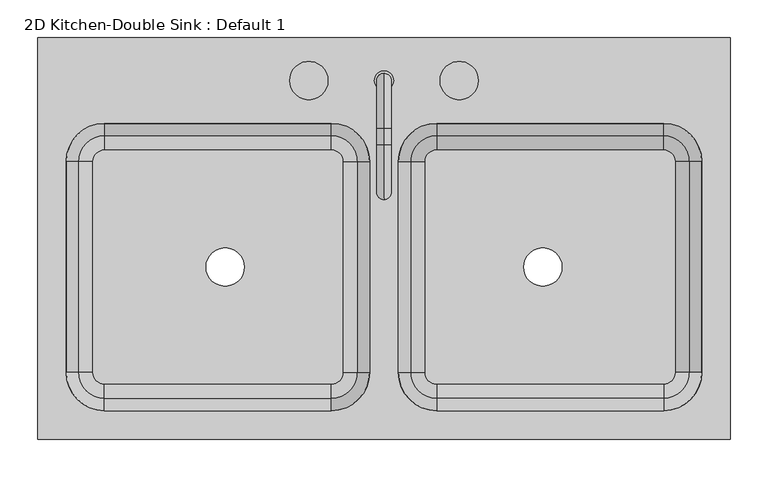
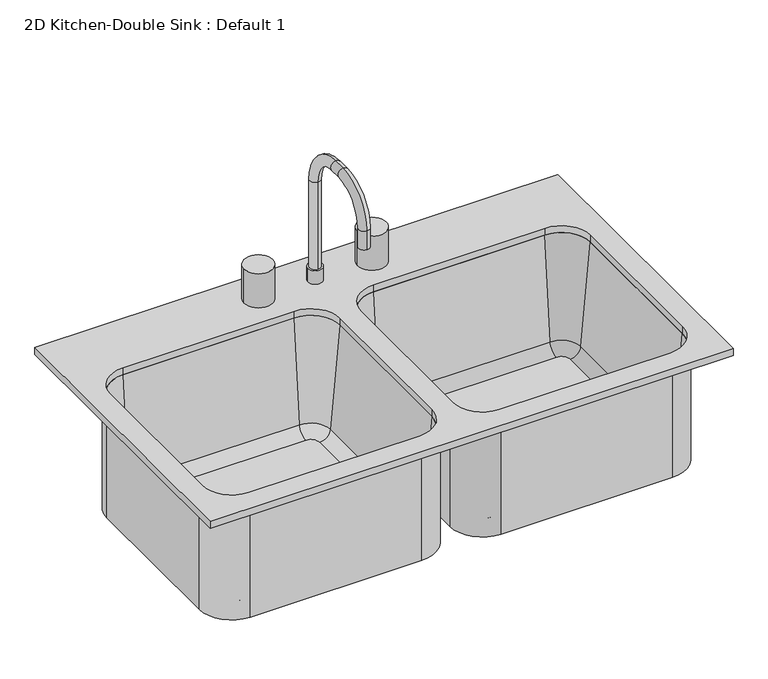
"""IFC4 building model written with IfcOpenShell, lengths in millimetres: flow terminal geometry, 2D Kitchen-Double Sink : Default 1."""

import ifcopenshell
import ifcopenshell.guid

model = None  # the IFC model being written
_history = None  # IfcOwnerHistory: only IFC2X3 demands one
_inside = {}  # id of a spatial element -> (the spatial element, [elements in it])
_under = {}  # id of a project, library or spatial element -> (it, [spatial elements below it])
_declared = {}  # id of a project -> (the project, [libraries it declares])
_typed = {}  # id of a type object -> (the type object, [elements of that type])
_made_of = {}  # id of a material, layer set ... -> (it, [elements and type objects made of it])


def new_model(schema):
    """Start an empty IFC model of exactly this schema.

    Asked for "IFC4X3", IfcOpenShell would pick the latest addendum, in which some entities
    have other attributes; the version numbers below select the first issue.
    IFC2X3 requires an IfcOwnerHistory on every rooted entity: one is made here for all.
    """
    global model, _history
    if schema == "IFC4X3":
        model = ifcopenshell.file(schema_version=(4, 3, 0, 0))
    else:
        model = ifcopenshell.file(schema=schema)
    _inside.clear()
    _under.clear()
    _declared.clear()
    _typed.clear()
    _made_of.clear()
    _history = None
    if model.schema == "IFC2X3":
        org = make("IfcOrganization", Name="unknown")
        user = make(
            "IfcPersonAndOrganization",
            ThePerson=make("IfcPerson", FamilyName="unknown"),
            TheOrganization=org,
        )
        app = make(
            "IfcApplication",
            ApplicationDeveloper=org,
            Version="unknown",
            ApplicationFullName="unknown",
            ApplicationIdentifier="unknown",
        )
        _history = make(
            "IfcOwnerHistory",
            OwningUser=user,
            OwningApplication=app,
            ChangeAction="ADDED",
            CreationDate=0,
        )
    return model


def make(cls, **values):
    """One entity of the class cls with the attributes given. An attribute that is None is left unset."""
    return model.create_entity(
        cls, **{name: value for name, value in values.items() if value is not None}
    )


def rooted(cls, **values):
    """An entity with a GlobalId (a new one), such as an element, a storey or a relation."""
    return make(cls, GlobalId=ifcopenshell.guid.new(), OwnerHistory=_history, **values)


def si_unit(unit_type, name, prefix=None):
    """IfcSIUnit, for example si_unit("LENGTHUNIT", "METRE", prefix="MILLI")."""
    return make("IfcSIUnit", UnitType=unit_type, Prefix=prefix, Name=name)


def assignment(units):
    """IfcUnitAssignment: the units of a project."""
    return None if units is None else make("IfcUnitAssignment", Units=units)


def point(xyz):
    """IfcCartesianPoint."""
    return None if xyz is None else make("IfcCartesianPoint", Coordinates=xyz)


def direction(xyz):
    """IfcDirection."""
    return None if xyz is None else make("IfcDirection", DirectionRatios=xyz)


def frame(location, z_axis=None, x_axis=None):
    """IfcAxis2Placement3D, a coordinate frame: its origin and axes. An axis left out is left unset."""
    return make(
        "IfcAxis2Placement3D",
        Location=point(location),
        Axis=direction(z_axis),
        RefDirection=direction(x_axis),
    )


def frame_2d(location, x_axis=None):
    """IfcAxis2Placement2D, a coordinate frame in the plane: its origin and x axis."""
    return make(
        "IfcAxis2Placement2D", Location=point(location), RefDirection=direction(x_axis)
    )


def origin():
    """The frame at (0, 0, 0) with its axes left unset."""
    return frame((0.0, 0.0, 0.0))


def place(relative_to, where):
    """IfcLocalPlacement: puts the frame where relative to a parent placement (None: the world)."""
    return make(
        "IfcLocalPlacement", PlacementRelTo=relative_to, RelativePlacement=where
    )


def context(
    kind, dimensions, precision=None, world=None, true_north=None, identifier=None
):
    """IfcGeometricRepresentationContext, for example the 3D "Model" context."""
    return make(
        "IfcGeometricRepresentationContext",
        ContextIdentifier=identifier,
        ContextType=kind,
        CoordinateSpaceDimension=dimensions,
        Precision=precision,
        WorldCoordinateSystem=world,
        TrueNorth=true_north,
    )


def project(units=None, contexts=None):
    """IfcProject with its units and contexts."""
    return rooted(
        "IfcProject",
        Name="project",
        RepresentationContexts=contexts,
        UnitsInContext=assignment(units),
    )


def spatial(cls, under=None, at=None, **own):
    """A site, building, storey or space (cls), placed at a placement, below another one or the project."""
    s = rooted(cls, ObjectPlacement=at, **own)
    if under is not None:
        _under.setdefault(under.id(), (under, []))[1].append(s)
    return s


def polyline(points):
    """IfcPolyline through the points."""
    return make("IfcPolyline", Points=[point(p) for p in points])


def circle_curve(where, radius):
    """IfcCircle in the frame where."""
    return make("IfcCircle", Position=where, Radius=radius)


def ellipse_curve(where, semi_axis1, semi_axis2):
    """IfcEllipse in the frame where."""
    return make(
        "IfcEllipse", Position=where, SemiAxis1=semi_axis1, SemiAxis2=semi_axis2
    )


def trimmed(basis, trim1, trim2, sense, master):
    """IfcTrimmedCurve: the piece of a basis curve between two trims."""
    return make(
        "IfcTrimmedCurve",
        BasisCurve=basis,
        Trim1=trim1,
        Trim2=trim2,
        SenseAgreement=sense,
        MasterRepresentation=master,
    )


def segment(curve, same_sense, transition):
    """IfcCompositeCurveSegment."""
    return make(
        "IfcCompositeCurveSegment",
        Transition=transition,
        SameSense=same_sense,
        ParentCurve=curve,
    )


def composite_curve(segments, self_intersect=None):
    """IfcCompositeCurve: segments joined end to end."""
    return make("IfcCompositeCurve", Segments=segments, SelfIntersect=self_intersect)


def outline(outer, holes=None, kind="AREA"):
    """IfcArbitraryClosedProfileDef: a profile drawn as a closed curve; with holes, ...WithVoids."""
    if holes is None:
        return make("IfcArbitraryClosedProfileDef", ProfileType=kind, OuterCurve=outer)
    return make(
        "IfcArbitraryProfileDefWithVoids",
        ProfileType=kind,
        OuterCurve=outer,
        InnerCurves=holes,
    )


def extrude(swept, where, along, depth):
    """IfcExtrudedAreaSolid: the profile swept, set in the frame where, extruded along a direction by depth."""
    return make(
        "IfcExtrudedAreaSolid",
        SweptArea=swept,
        Position=where,
        ExtrudedDirection=direction(along),
        Depth=depth,
    )


def shape(context_of_items, identifier, shape_type, items):
    """IfcShapeRepresentation: the items that make up one representation, for example the "Body"."""
    return make(
        "IfcShapeRepresentation",
        ContextOfItems=context_of_items,
        RepresentationIdentifier=identifier,
        RepresentationType=shape_type,
        Items=items,
    )


def source(mapping_origin, context_of_items, identifier, shape_type, items):
    """IfcRepresentationMap: a shape defined once, which mapped items show again and again."""
    return make(
        "IfcRepresentationMap",
        MappingOrigin=mapping_origin,
        MappedRepresentation=shape(context_of_items, identifier, shape_type, items),
    )


def transform(
    local_origin,
    x_axis=None,
    y_axis=None,
    z_axis=None,
    scale=None,
    scale2=None,
    scale3=None,
    uniform=True,
):
    """IfcCartesianTransformationOperator3D, or its non-uniform kind. x_axis, y_axis, z_axis: its Axis1, 2, 3."""
    if uniform:
        return make(
            "IfcCartesianTransformationOperator3D",
            Axis1=direction(x_axis),
            Axis2=direction(y_axis),
            LocalOrigin=point(local_origin),
            Scale=scale,
            Axis3=direction(z_axis),
        )
    return make(
        "IfcCartesianTransformationOperator3DnonUniform",
        Axis1=direction(x_axis),
        Axis2=direction(y_axis),
        LocalOrigin=point(local_origin),
        Scale=scale,
        Axis3=direction(z_axis),
        Scale2=scale2,
        Scale3=scale3,
    )


def mapped(mapping_source, mapping_target):
    """IfcMappedItem: shows the shape of a source again, moved by a transform."""
    return make(
        "IfcMappedItem", MappingSource=mapping_source, MappingTarget=mapping_target
    )


def made_of(thing, what):
    """Note that an element or type object is made of a material, layer set ...; save() writes the relation."""
    if what is not None:
        _made_of.setdefault(what.id(), (what, []))[1].append(thing)
    return thing


def element(
    cls,
    number,
    at=None,
    inside=None,
    cuts=None,
    type_object=None,
    material=None,
    context=None,
    identifier="Body",
    shape_type=None,
    held_by="IfcProductDefinitionShape",
    body=None,
    shapes=None,
    **own,
):
    """One element of the class cls, such as IfcWall. Its Tag is "e" and its number.

    at: its placement. inside: the storey or other place that contains it. cuts: it is an
    opening in that element (IfcRelVoidsElement). A single representation is given by context,
    identifier, shape_type and body (its items); several are given by shapes. held_by: the class
    of the entity that holds the representations. save() writes the other relations.
    """
    e = rooted(cls, Tag="e%d" % number, ObjectPlacement=at, **own)
    if body is not None:
        shapes = [shape(context, identifier, shape_type, body)]
    if shapes is not None:
        e.Representation = make(held_by, Representations=shapes)
    if inside is not None:
        _inside.setdefault(inside.id(), (inside, []))[1].append(e)
    if cuts is not None:
        rooted(
            "IfcRelVoidsElement", RelatingBuildingElement=cuts, RelatedOpeningElement=e
        )
    if type_object is not None:
        _typed.setdefault(type_object.id(), (type_object, []))[1].append(e)
    return made_of(e, material)


def aggregate(whole, parts):
    """IfcRelAggregates: a whole, such as a stair, and the parts it consists of."""
    return rooted("IfcRelAggregates", RelatingObject=whole, RelatedObjects=parts)


def save(model, path):
    """Write the relations noted so far, then the file.

    IfcRelAggregates (storeys below a building ...), IfcRelContainedInSpatialStructure (elements
    in a storey), IfcRelDefinesByType, IfcRelAssociatesMaterial and IfcRelDeclares: one each for
    every whole, place, type object, material and project.
    """
    for whole, parts in _under.values():
        aggregate(whole, parts)
    for where, things in _inside.values():
        rooted(
            "IfcRelContainedInSpatialStructure",
            RelatedElements=things,
            RelatingStructure=where,
        )
    for kind, things in _typed.values():
        rooted("IfcRelDefinesByType", RelatedObjects=things, RelatingType=kind)
    for what, things in _made_of.values():
        rooted("IfcRelAssociatesMaterial", RelatedObjects=things, RelatingMaterial=what)
    for by, libraries in _declared.values():
        rooted("IfcRelDeclares", RelatingContext=by, RelatedDefinitions=libraries)
    model.write(path)


def plane_surface(at):
    """IfcPlane: the flat surface through the origin of the frame at, square to its z axis."""
    return make("IfcPlane", Position=at)


def cylinder_surface(at, radius):
    """IfcCylindricalSurface: all points at the distance radius from the z axis of the frame at."""
    return make("IfcCylindricalSurface", Position=at, Radius=radius)


def revolved_surface(curve, axis_point, axis_direction):
    """IfcSurfaceOfRevolution: the curve turned about the line through axis_point along axis_direction."""
    return make(
        "IfcSurfaceOfRevolution",
        SweptCurve=make("IfcArbitraryOpenProfileDef", ProfileType="CURVE", Curve=curve),
        AxisPosition=make("IfcAxis1Placement", Location=point(axis_point), Axis=direction(axis_direction)),
    )


def advanced_brep(points, edges, surfaces, faces):
    """IfcAdvancedBrep: a solid bounded by faces that lie on surfaces and meet in shared edges.

    An edge is (start, end): straight between two places in points (the first is 0);
    or (start, end, curve); or (start, end, curve, False) where it runs against its curve.
    A face is (place in surfaces, loops), or (place, loops, False) where it looks against
    its surface's normal. A loop lists edges by number (the first is 1), with a minus sign
    where the edge is run from its end to its start. The first loop is the outer one.
    """
    corners = [point(p) for p in points]
    vertices = [make("IfcVertexPoint", VertexGeometry=c) for c in corners]
    made = []
    for start, end, *more in edges:
        made.append(
            make(
                "IfcEdgeCurve",
                EdgeStart=vertices[start],
                EdgeEnd=vertices[end],
                EdgeGeometry=more[0] if more else make("IfcPolyline", Points=[corners[start], corners[end]]),
                SameSense=more[1] if len(more) > 1 else True,
            )
        )
    hull = []
    for where, loops, *sense in faces:
        bounds = []
        for j, loop in enumerate(loops):
            ring = [make("IfcOrientedEdge", EdgeElement=made[abs(k) - 1], Orientation=k > 0) for k in loop]
            bounds.append(
                make(
                    "IfcFaceOuterBound" if j == 0 else "IfcFaceBound",
                    Bound=make("IfcEdgeLoop", EdgeList=ring),
                    Orientation=True,
                )
            )
        hull.append(make("IfcAdvancedFace", Bounds=bounds, FaceSurface=surfaces[where], SameSense=sense[0] if sense else True))
    return make("IfcAdvancedBrep", Outer=make("IfcClosedShell", CfsFaces=hull))


def flow_terminal_2d_kitchen_double_sink_default_1_4ed9f79b(model_context):
    return source(origin(), model_context, "Body", "SolidModel", [
        advanced_brep(
        [(387.6909646, 120.0338193, 555.625), (85.5392406, 120.0338193, 555.625), (70.2508224, 104.7454011, 555.625), (70.2508224, -176.2545989, 555.625), (85.5392406, -191.5430171, 555.625), (387.6909709, -191.5430171, 555.625), (402.9793891, -176.2545989, 555.625), (402.9793891, 104.7454011, 555.625), (201.6901057, -35.7545989, 555.625), (252.4901057, -35.7545989, 555.625), (28.3892406, 104.7454011, 546.1), (85.5392406, 161.8954011, 546.1), (387.6909709, 161.8954011, 546.1), (444.8409709, 104.7454011, 546.1), (444.8409709, -176.2545989, 546.1), (387.6909709, -233.4045989, 546.1), (85.5392406, -233.4045989, 546.1), (28.3892406, -176.2545989, 546.1), (201.6901057, -35.7545989, 546.1), (252.4901057, -35.7545989, 546.1), (34.7392406, 104.7454011, 762.0), (85.5392406, 155.5454011, 762.0), (85.5392406, 161.8954011, 762.0), (28.3892406, 104.7454011, 762.0), (51.2733134, 104.7454011, 573.0146831), (85.5392406, 139.0113283, 573.0146831), (28.3892406, -176.2545989, 762.0), (34.7392406, -176.2545989, 762.0), (51.2733134, -176.2545989, 573.0146831), (85.5392406, -233.4045989, 762.0), (85.5392406, -227.0545989, 762.0), (85.5392406, -210.5205261, 573.0146831), (387.6909709, -233.4045989, 762.0), (387.6909709, -227.0545989, 762.0), (387.6909709, -210.5205261, 573.0146831), (444.8409709, -176.2545989, 762.0), (438.4909709, -176.2545989, 762.0), (421.9568981, -176.2545989, 573.0146831), (444.8409709, 104.7454011, 762.0), (438.4909709, 104.7454011, 762.0), (421.9568981, 104.7454011, 573.0146831), (387.6909709, 161.8954011, 762.0), (387.6909709, 155.5454011, 762.0), (387.6909709, 139.0113283, 573.0146831)],
        [
            (0, 1),
            (1, 2, circle_curve(frame((85.5392406, 104.7454011, 555.625), z_axis=(0.0, 0.0, 1.0), x_axis=(0.0, 1.0, 0.0)), 15.2884182)),
            (2, 3),
            (3, 4, circle_curve(frame((85.5392406, -176.2545989, 555.625), z_axis=(0.0, 0.0, 1.0), x_axis=(-1.0, 0.0, 0.0)), 15.2884182)),
            (4, 5),
            (5, 6, circle_curve(frame((387.6909709, -176.2545989, 555.625), z_axis=(0.0, 0.0, 1.0), x_axis=(0.0, -1.0, 0.0)), 15.2884182)),
            (6, 7),
            (7, 0, circle_curve(frame((387.6909709, 104.7454011, 555.625), z_axis=(0.0, 0.0, 1.0), x_axis=(1.0, 0.0, 0.0)), 15.2884182)),
            (8, 9, circle_curve(frame((227.0901057, -35.7545989, 555.625), z_axis=(0.0, 0.0, -1.0), x_axis=(1.0, 0.0, 0.0)), 25.4)),
            (9, 8, circle_curve(frame((227.0901057, -35.7545989, 555.625), z_axis=(0.0, 0.0, -1.0), x_axis=(1.0, 0.0, 0.0)), 25.4)),
            (10, 11, circle_curve(frame((85.5392406, 104.7454011, 546.1), z_axis=(0.0, 0.0, -1.0), x_axis=(0.0, 1.0, 0.0)), 57.15)),
            (11, 12),
            (12, 13, circle_curve(frame((387.6909709, 104.7454011, 546.1), z_axis=(0.0, 0.0, -1.0), x_axis=(1.0, 0.0, 0.0)), 57.15)),
            (13, 14),
            (14, 15, circle_curve(frame((387.6909709, -176.2545989, 546.1), z_axis=(0.0, 0.0, -1.0), x_axis=(0.0, -1.0, 0.0)), 57.15)),
            (15, 16),
            (16, 17, circle_curve(frame((85.5392406, -176.2545989, 546.1), z_axis=(0.0, 0.0, -1.0), x_axis=(-1.0, 0.0, 0.0)), 57.15)),
            (17, 10),
            (18, 19, circle_curve(frame((227.0901057, -35.7545989, 546.1), z_axis=(0.0, 0.0, 1.0), x_axis=(1.0, 0.0, 0.0)), 25.4)),
            (19, 18, circle_curve(frame((227.0901057, -35.7545989, 546.1), z_axis=(0.0, 0.0, 1.0), x_axis=(1.0, 0.0, 0.0)), 25.4)),
            (8, 18),
            (19, 9),
            (20, 21, circle_curve(frame((85.5392406, 104.7454011, 762.0), z_axis=(0.0, 0.0, -1.0), x_axis=(0.0, 1.0, 0.0)), 50.8)),
            (21, 22),
            (22, 23, circle_curve(frame((85.5392406, 104.7454011, 762.0), z_axis=(0.0, 0.0, 1.0), x_axis=(0.0, 1.0, 0.0)), 57.15)),
            (23, 20),
            (20, 24),
            (24, 25, circle_curve(frame((85.5392406, 104.7454011, 573.0146831), z_axis=(0.0, 0.0, -1.0), x_axis=(0.0, 1.0, 0.0)), 34.2659272)),
            (25, 21),
            (24, 2, circle_curve(frame((70.2508224, 104.7454011, 574.675), z_axis=(0.0, -1.0, 0.0), x_axis=(1.0, 0.0, 0.0)), 19.05)),
            (1, 25, circle_curve(frame((85.5392406, 120.0338193, 574.675), z_axis=(1.0, 0.0, 0.0), x_axis=(0.0, -1.0, 0.0)), 19.05)),
            (22, 11),
            (10, 23),
            (23, 26),
            (26, 27),
            (27, 20),
            (27, 28),
            (28, 24),
            (28, 3, circle_curve(frame((70.2508224, -176.2545989, 574.675), z_axis=(0.0, -1.0, 0.0), x_axis=(1.0, 0.0, 0.0)), 19.05)),
            (17, 26),
            (26, 29, circle_curve(frame((85.5392406, -176.2545989, 762.0), z_axis=(0.0, 0.0, 1.0), x_axis=(-1.0, 0.0, 0.0)), 57.15)),
            (29, 30),
            (30, 27, circle_curve(frame((85.5392406, -176.2545989, 762.0), z_axis=(0.0, 0.0, -1.0), x_axis=(-1.0, 0.0, 0.0)), 50.8)),
            (30, 31),
            (31, 28, circle_curve(frame((85.5392406, -176.2545989, 573.0146831), z_axis=(0.0, 0.0, -1.0), x_axis=(-1.0, 0.0, 0.0)), 34.2659272)),
            (31, 4, circle_curve(frame((85.5392406, -191.5430171, 574.675), z_axis=(1.0, 0.0, 0.0), x_axis=(0.0, 1.0, 0.0)), 19.05)),
            (16, 29),
            (29, 32),
            (32, 33),
            (33, 30),
            (33, 34),
            (34, 31),
            (34, 5, circle_curve(frame((387.6909709, -191.5430171, 574.675), z_axis=(1.0, 0.0, 0.0), x_axis=(0.0, 1.0, 0.0)), 19.05)),
            (15, 32),
            (32, 35, circle_curve(frame((387.6909709, -176.2545989, 762.0), z_axis=(0.0, 0.0, 1.0), x_axis=(0.0, -1.0, 0.0)), 57.15)),
            (35, 36),
            (36, 33, circle_curve(frame((387.6909709, -176.2545989, 762.0), z_axis=(0.0, 0.0, -1.0), x_axis=(0.0, -1.0, 0.0)), 50.8)),
            (36, 37),
            (37, 34, circle_curve(frame((387.6909709, -176.2545989, 573.0146831), z_axis=(0.0, 0.0, -1.0), x_axis=(0.0, -1.0, 0.0)), 34.2659272)),
            (37, 6, circle_curve(frame((402.9793891, -176.2545989, 574.675), z_axis=(0.0, 1.0, 0.0), x_axis=(-1.0, 0.0, 0.0)), 19.05)),
            (14, 35),
            (35, 38),
            (38, 39),
            (39, 36),
            (39, 40),
            (40, 37),
            (40, 7, circle_curve(frame((402.9793891, 104.7454011, 574.675), z_axis=(0.0, 1.0, 0.0), x_axis=(-1.0, 0.0, 0.0)), 19.05)),
            (13, 38),
            (38, 41, circle_curve(frame((387.6909709, 104.7454011, 762.0), z_axis=(0.0, 0.0, 1.0), x_axis=(1.0, 0.0, 0.0)), 57.15)),
            (41, 42),
            (42, 39, circle_curve(frame((387.6909709, 104.7454011, 762.0), z_axis=(0.0, 0.0, -1.0), x_axis=(1.0, 0.0, 0.0)), 50.8)),
            (42, 43),
            (43, 40, circle_curve(frame((387.6909709, 104.7454011, 573.0146831), z_axis=(0.0, 0.0, -1.0), x_axis=(1.0, 0.0, 0.0)), 34.2659272)),
            (43, 0, circle_curve(frame((387.6909709, 120.0338193, 574.675), z_axis=(-1.0, 0.0, 0.0), x_axis=(0.0, -1.0, 0.0)), 19.05)),
            (12, 41),
            (21, 42),
            (41, 22),
            (25, 43),
        ],
        [
            plane_surface(frame((85.5392406, 120.0338193, 555.625), z_axis=(0.0, 0.0, 1.0), x_axis=(-1.0, 0.0, 0.0))),
            plane_surface(frame((85.5392406, 120.0338193, 546.1), z_axis=(0.0, 0.0, -1.0), x_axis=(1.0, 0.0, 0.0))),
            revolved_surface(polyline([(252.49010570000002, -35.7545989, 546.1), (252.49010570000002, -35.7545989, 555.625)]), (227.0901057, -35.7545989, 0.0), (0.0, 0.0, -1.0)),
            plane_surface(frame((85.5392406, 104.7454011, 762.0), z_axis=(0.0, 0.0, 1.0), x_axis=(0.0, 1.0, 0.0))),
            revolved_surface(polyline([(85.5392406, 155.5454011, 762.0), (85.5392406, 139.0113283, 573.0146831)]), (85.5392406, 104.7454011, 0.0), (0.0, 0.0, 1.0)),
            revolved_surface(trimmed(ellipse_curve(frame((85.5392406, 120.0338193, 574.675), z_axis=(-1.0, 0.0, 0.0), x_axis=(0.0, -1.0, 0.0)), 19.05, 19.05), [point((85.5392406, 139.0113283, 573.0146831))], [point((85.5392406, 120.0338193, 555.625))], True, "CARTESIAN"), (85.5392406, 104.7454011, 0.0), (0.0, 0.0, 1.0)),
            cylinder_surface(frame((85.5392406, 104.7454011, 0.0), z_axis=(0.0, 0.0, 1.0), x_axis=(0.0, 1.0, 0.0)), 57.15),
            plane_surface(frame((28.3892406, 104.7454011, 762.0), z_axis=(0.0, 0.0, 1.0), x_axis=(0.0, -1.0, 0.0))),
            plane_surface(frame((34.7392406, 104.7454011, 762.0), z_axis=(0.996194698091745, 0.0, 0.08715574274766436), x_axis=(0.0, -1.0, 0.0))),
            revolved_surface(polyline([(89.3008224, -176.25459890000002, 574.675), (89.3008224, 104.7454011, 574.675)]), (70.2508224, 104.7454011, 574.675), (0.0, -1.0, 0.0)),
            plane_surface(frame((28.3892406, 104.7454011, 546.1), z_axis=(-1.0, 0.0, 0.0), x_axis=(0.0, -1.0, 0.0))),
            plane_surface(frame((85.5392406, -176.2545989, 762.0), z_axis=(0.0, 0.0, 1.0), x_axis=(-1.0, 0.0, 0.0))),
            revolved_surface(polyline([(34.7392406, -176.2545989, 762.0), (51.2733134, -176.2545989, 573.0146831)]), (85.5392406, -176.2545989, 0.0), (0.0, 0.0, 1.0)),
            revolved_surface(trimmed(ellipse_curve(frame((70.2508224, -176.2545989, 574.675), z_axis=(0.0, -1.0, 0.0), x_axis=(1.0, 0.0, 0.0)), 19.05, 19.05), [point((51.2733134, -176.2545989, 573.0146831))], [point((70.2508224, -176.2545989, 555.625))], True, "CARTESIAN"), (85.5392406, -176.2545989, 0.0), (0.0, 0.0, 1.0)),
            cylinder_surface(frame((85.5392406, -176.2545989, 0.0), z_axis=(0.0, 0.0, 1.0), x_axis=(-1.0, 0.0, 0.0)), 57.15),
            plane_surface(frame((85.5392406, -233.4045989, 762.0), z_axis=(0.0, 0.0, 1.0), x_axis=(1.0, 0.0, 0.0))),
            plane_surface(frame((85.5392406, -227.0545989, 762.0), z_axis=(0.0, 0.996194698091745, 0.08715574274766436), x_axis=(1.0, 0.0, 0.0))),
            revolved_surface(polyline([(387.6909709, -172.49301709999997, 574.675), (85.5392406, -172.49301709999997, 574.675)]), (85.5392406, -191.5430171, 574.675), (1.0, 0.0, 0.0)),
            plane_surface(frame((85.5392406, -233.4045989, 546.1), z_axis=(0.0, -1.0, 0.0), x_axis=(1.0, 0.0, 0.0))),
            plane_surface(frame((387.6909709, -176.2545989, 762.0), z_axis=(0.0, 0.0, 1.0), x_axis=(0.0, -1.0, 0.0))),
            revolved_surface(polyline([(387.6909709, -227.0545989, 762.0), (387.6909709, -210.5205261, 573.0146831)]), (387.6909709, -176.2545989, 0.0), (0.0, 0.0, 1.0)),
            revolved_surface(trimmed(ellipse_curve(frame((387.6909709, -191.5430171, 574.675), z_axis=(1.0, 0.0, 0.0), x_axis=(0.0, 1.0, 0.0)), 19.05, 19.05), [point((387.6909709, -210.5205261, 573.0146831))], [point((387.6909709, -191.5430171, 555.625))], True, "CARTESIAN"), (387.6909709, -176.2545989, 0.0), (0.0, 0.0, 1.0)),
            cylinder_surface(frame((387.6909709, -176.2545989, 0.0), z_axis=(0.0, 0.0, 1.0), x_axis=(0.0, -1.0, 0.0)), 57.15),
            plane_surface(frame((444.8409709, -176.2545989, 762.0), z_axis=(0.0, 0.0, 1.0), x_axis=(0.0, 1.0, 0.0))),
            plane_surface(frame((438.4909709, -176.2545989, 762.0), z_axis=(-0.996194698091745, 0.0, 0.08715574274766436), x_axis=(0.0, 1.0, 0.0))),
            revolved_surface(polyline([(383.9293891, 104.74540110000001, 574.675), (383.9293891, -176.2545989, 574.675)]), (402.9793891, -176.2545989, 574.675), (0.0, 1.0, 0.0)),
            plane_surface(frame((444.8409709, -176.2545989, 546.1), z_axis=(1.0, 0.0, 0.0), x_axis=(0.0, 1.0, 0.0))),
            plane_surface(frame((387.6909709, 104.7454011, 762.0), z_axis=(0.0, 0.0, 1.0), x_axis=(1.0, 0.0, 0.0))),
            revolved_surface(polyline([(438.4909709, 104.7454011, 762.0), (421.9568981, 104.7454011, 573.0146831)]), (387.6909709, 104.7454011, 0.0), (0.0, 0.0, 1.0)),
            revolved_surface(trimmed(ellipse_curve(frame((402.9793891, 104.7454011, 574.675), z_axis=(0.0, 1.0, 0.0), x_axis=(-1.0, 0.0, 0.0)), 19.05, 19.05), [point((421.9568981, 104.7454011, 573.0146831))], [point((402.9793891, 104.7454011, 555.625))], True, "CARTESIAN"), (387.6909709, 104.7454011, 0.0), (0.0, 0.0, 1.0)),
            cylinder_surface(frame((387.6909709, 104.7454011, 0.0), z_axis=(0.0, 0.0, 1.0), x_axis=(1.0, 0.0, 0.0)), 57.15),
            plane_surface(frame((387.6909709, 161.8954011, 762.0), z_axis=(0.0, 0.0, 1.0), x_axis=(-1.0, 0.0, 0.0))),
            plane_surface(frame((387.6909709, 155.5454011, 762.0), z_axis=(0.0, -0.996194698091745, 0.08715574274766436), x_axis=(-1.0, 0.0, 0.0))),
            revolved_surface(polyline([(85.53924059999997, 100.98381930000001, 574.675), (387.6909709, 100.98381930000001, 574.675)]), (387.6909709, 120.0338193, 574.675), (-1.0, 0.0, 0.0)),
            plane_surface(frame((387.6909709, 161.8954011, 546.1), z_axis=(0.0, 1.0, 0.0), x_axis=(-1.0, 0.0, 0.0))),
        ],
        [
            (0, [[1, 2, 3, 4, 5, 6, 7, 8], [9, 10]]),
            (1, [[11, 12, 13, 14, 15, 16, 17, 18], [19, 20]]),
            (2, [[-9, 21, -20, 22]]),
            (2, [[-10, -22, -19, -21]]),
            (3, [[23, 24, 25, 26]]),
            (4, [[-23, 27, 28, 29]]),
            (5, [[-28, 30, -2, 31]]),
            (6, [[-25, 32, -11, 33]]),
            (7, [[-26, 34, 35, 36]]),
            (8, [[-27, -36, 37, 38]]),
            (9, [[-30, -38, 39, -3]]),
            (10, [[-33, -18, 40, -34]]),
            (11, [[-35, 41, 42, 43]]),
            (12, [[-37, -43, 44, 45]]),
            (13, [[-39, -45, 46, -4]]),
            (14, [[-40, -17, 47, -41]]),
            (15, [[-42, 48, 49, 50]]),
            (16, [[-44, -50, 51, 52]]),
            (17, [[-46, -52, 53, -5]]),
            (18, [[-47, -16, 54, -48]]),
            (19, [[-49, 55, 56, 57]]),
            (20, [[-51, -57, 58, 59]]),
            (21, [[-53, -59, 60, -6]]),
            (22, [[-54, -15, 61, -55]]),
            (23, [[-56, 62, 63, 64]]),
            (24, [[-58, -64, 65, 66]]),
            (25, [[-60, -66, 67, -7]]),
            (26, [[-61, -14, 68, -62]]),
            (27, [[-63, 69, 70, 71]]),
            (28, [[-65, -71, 72, 73]]),
            (29, [[-67, -73, 74, -8]]),
            (30, [[-68, -13, 75, -69]]),
            (31, [[-24, 76, -70, 77]]),
            (32, [[-29, 78, -72, -76]]),
            (33, [[-31, -1, -74, -78]]),
            (34, [[-32, -77, -75, -12]]),
        ],
    ),
        advanced_brep(
        [(-38.8723412, 104.7454011, 555.625), (-54.1607594, 120.0338193, 555.625), (-356.3124898, 120.0338193, 555.625), (-371.600908, 104.7454011, 555.625), (-371.600908, -176.2545989, 555.625), (-356.3124898, -191.5430171, 555.625), (-54.1607594, -191.5430171, 555.625), (-38.8723412, -176.2545989, 555.625), (-221.1116246, -35.7545989, 555.625), (-170.3116246, -35.7545989, 555.625), (-413.4624898, 104.7454011, 546.1), (-356.3124898, 161.8954011, 546.1), (-54.1607594, 161.8954011, 546.1), (2.9892406, 104.7454011, 546.1), (2.9892406, -176.2545989, 546.1), (-54.1607594, -233.4045989, 546.1), (-356.3124898, -233.4045989, 546.1), (-413.4624898, -176.2545989, 546.1), (-221.1116246, -35.7545989, 546.1), (-170.3116246, -35.7545989, 546.1), (-54.1607594, 161.8954011, 762.0), (2.9892406, 104.7454011, 762.0), (-19.8948322, 104.7454011, 573.0146831), (-54.1607594, 139.0113283, 573.0146831), (-3.3607594, 104.7454011, 762.0), (-54.1607594, 155.5454011, 762.0), (2.9892406, -176.2545989, 762.0), (-19.8948322, -176.2545989, 573.0146831), (-3.3607594, -176.2545989, 762.0), (-54.1607594, -233.4045989, 762.0), (-54.1607594, -210.5205261, 573.0146831), (-54.1607594, -227.0545989, 762.0), (-356.3124898, -233.4045989, 762.0), (-356.3124898, -210.5205261, 573.0146831), (-356.3124898, -227.0545989, 762.0), (-413.4624898, -176.2545989, 762.0), (-390.578417, -176.2545989, 573.0146831), (-407.1124898, -176.2545989, 762.0), (-413.4624898, 104.7454011, 762.0), (-390.578417, 104.7454011, 573.0146831), (-407.1124898, 104.7454011, 762.0), (-356.3124898, 161.8954011, 762.0), (-356.3124898, 139.0113283, 573.0146831), (-356.3124898, 155.5454011, 762.0)],
        [
            (0, 1, circle_curve(frame((-54.1607594, 104.7454011, 555.625), z_axis=(0.0, 0.0, 1.0), x_axis=(0.0, 1.0, 0.0)), 15.2884182)),
            (1, 2),
            (2, 3, circle_curve(frame((-356.3124898, 104.7454011, 555.625), z_axis=(0.0, 0.0, 1.0), x_axis=(-1.0, 0.0, 0.0)), 15.2884182)),
            (3, 4),
            (4, 5, circle_curve(frame((-356.3124898, -176.2545989, 555.625), z_axis=(0.0, 0.0, 1.0), x_axis=(0.0, -1.0, 0.0)), 15.2884182)),
            (5, 6),
            (6, 7, circle_curve(frame((-54.1607594, -176.2545989, 555.625), z_axis=(0.0, 0.0, 1.0), x_axis=(1.0, 0.0, 0.0)), 15.2884182)),
            (7, 0),
            (8, 9, circle_curve(frame((-195.7116246, -35.7545989, 555.625), z_axis=(0.0, 0.0, -1.0), x_axis=(1.0, 0.0, 0.0)), 25.4)),
            (9, 8, circle_curve(frame((-195.7116246, -35.7545989, 555.625), z_axis=(0.0, 0.0, -1.0), x_axis=(1.0, 0.0, 0.0)), 25.4)),
            (10, 11, circle_curve(frame((-356.3124898, 104.7454011, 546.1), z_axis=(0.0, 0.0, -1.0), x_axis=(-1.0, 0.0, 0.0)), 57.15)),
            (11, 12),
            (12, 13, circle_curve(frame((-54.1607594, 104.7454011, 546.1), z_axis=(0.0, 0.0, -1.0), x_axis=(0.0, 1.0, 0.0)), 57.15)),
            (13, 14),
            (14, 15, circle_curve(frame((-54.1607594, -176.2545989, 546.1), z_axis=(0.0, 0.0, -1.0), x_axis=(1.0, 0.0, 0.0)), 57.15)),
            (15, 16),
            (16, 17, circle_curve(frame((-356.3124898, -176.2545989, 546.1), z_axis=(0.0, 0.0, -1.0), x_axis=(0.0, -1.0, 0.0)), 57.15)),
            (17, 10),
            (18, 19, circle_curve(frame((-195.7116246, -35.7545989, 546.1), z_axis=(0.0, 0.0, 1.0), x_axis=(1.0, 0.0, 0.0)), 25.4)),
            (19, 18, circle_curve(frame((-195.7116246, -35.7545989, 546.1), z_axis=(0.0, 0.0, 1.0), x_axis=(1.0, 0.0, 0.0)), 25.4)),
            (8, 18),
            (19, 9),
            (12, 20),
            (20, 21, circle_curve(frame((-54.1607594, 104.7454011, 762.0), z_axis=(0.0, 0.0, -1.0), x_axis=(0.0, 1.0, 0.0)), 57.15)),
            (21, 13),
            (0, 22, circle_curve(frame((-38.8723412, 104.7454011, 574.675), z_axis=(0.0, -1.0, 0.0), x_axis=(1.0, 0.0, 0.0)), 19.05)),
            (22, 23, circle_curve(frame((-54.1607594, 104.7454011, 573.0146831), z_axis=(0.0, 0.0, 1.0), x_axis=(0.0, 1.0, 0.0)), 34.2659272)),
            (23, 1, circle_curve(frame((-54.1607594, 120.0338193, 574.675), z_axis=(-1.0, 0.0, 0.0), x_axis=(0.0, 1.0, 0.0)), 19.05)),
            (22, 24),
            (24, 25, circle_curve(frame((-54.1607594, 104.7454011, 762.0), z_axis=(0.0, 0.0, 1.0), x_axis=(0.0, 1.0, 0.0)), 50.8)),
            (25, 23),
            (20, 25),
            (24, 21),
            (21, 26),
            (26, 14),
            (7, 27, circle_curve(frame((-38.8723412, -176.2545989, 574.675), z_axis=(0.0, -1.0, 0.0), x_axis=(1.0, 0.0, 0.0)), 19.05)),
            (27, 22),
            (27, 28),
            (28, 24),
            (28, 26),
            (26, 29, circle_curve(frame((-54.1607594, -176.2545989, 762.0), z_axis=(0.0, 0.0, -1.0), x_axis=(1.0, 0.0, 0.0)), 57.15)),
            (29, 15),
            (6, 30, circle_curve(frame((-54.1607594, -191.5430171, 574.675), z_axis=(-1.0, 0.0, 0.0), x_axis=(0.0, -1.0, 0.0)), 19.05)),
            (30, 27, circle_curve(frame((-54.1607594, -176.2545989, 573.0146831), z_axis=(0.0, 0.0, 1.0), x_axis=(1.0, 0.0, 0.0)), 34.2659272)),
            (30, 31),
            (31, 28, circle_curve(frame((-54.1607594, -176.2545989, 762.0), z_axis=(0.0, 0.0, 1.0), x_axis=(1.0, 0.0, 0.0)), 50.8)),
            (31, 29),
            (29, 32),
            (32, 16),
            (5, 33, circle_curve(frame((-356.3124898, -191.5430171, 574.675), z_axis=(-1.0, 0.0, 0.0), x_axis=(0.0, -1.0, 0.0)), 19.05)),
            (33, 30),
            (33, 34),
            (34, 31),
            (34, 32),
            (32, 35, circle_curve(frame((-356.3124898, -176.2545989, 762.0), z_axis=(0.0, 0.0, -1.0), x_axis=(0.0, -1.0, 0.0)), 57.15)),
            (35, 17),
            (4, 36, circle_curve(frame((-371.600908, -176.2545989, 574.675), z_axis=(0.0, 1.0, 0.0), x_axis=(-1.0, 0.0, 0.0)), 19.05)),
            (36, 33, circle_curve(frame((-356.3124898, -176.2545989, 573.0146831), z_axis=(0.0, 0.0, 1.0), x_axis=(0.0, -1.0, 0.0)), 34.2659272)),
            (36, 37),
            (37, 34, circle_curve(frame((-356.3124898, -176.2545989, 762.0), z_axis=(0.0, 0.0, 1.0), x_axis=(0.0, -1.0, 0.0)), 50.8)),
            (37, 35),
            (35, 38),
            (38, 10),
            (3, 39, circle_curve(frame((-371.600908, 104.7454011, 574.675), z_axis=(0.0, 1.0, 0.0), x_axis=(-1.0, 0.0, 0.0)), 19.05)),
            (39, 36),
            (39, 40),
            (40, 37),
            (40, 38),
            (38, 41, circle_curve(frame((-356.3124898, 104.7454011, 762.0), z_axis=(0.0, 0.0, -1.0), x_axis=(-1.0, 0.0, 0.0)), 57.15)),
            (41, 11),
            (2, 42, circle_curve(frame((-356.3124898, 120.0338193, 574.675), z_axis=(1.0, 0.0, 0.0), x_axis=(0.0, 1.0, 0.0)), 19.05)),
            (42, 39, circle_curve(frame((-356.3124898, 104.7454011, 573.0146831), z_axis=(0.0, 0.0, 1.0), x_axis=(-1.0, 0.0, 0.0)), 34.2659272)),
            (42, 43),
            (43, 40, circle_curve(frame((-356.3124898, 104.7454011, 762.0), z_axis=(0.0, 0.0, 1.0), x_axis=(-1.0, 0.0, 0.0)), 50.8)),
            (43, 41),
            (41, 20),
            (23, 42),
            (25, 43),
        ],
        [
            plane_surface(frame((-356.3124898, 117.4454011, 555.625), z_axis=(0.0, 0.0, 1.0), x_axis=(-1.0, 0.0, 0.0))),
            plane_surface(frame((-356.3124898, 117.4454011, 546.1), z_axis=(0.0, 0.0, -1.0), x_axis=(1.0, 0.0, 0.0))),
            revolved_surface(polyline([(-170.3116246, -35.7545989, 546.1), (-170.3116246, -35.7545989, 555.625)]), (-195.7116246, -35.7545989, 0.0), (0.0, 0.0, -1.0)),
            cylinder_surface(frame((-54.1607594, 104.7454011, 0.0), z_axis=(0.0, 0.0, -1.0), x_axis=(0.0, 1.0, 0.0)), 57.15),
            revolved_surface(trimmed(ellipse_curve(frame((-54.1607594, 120.0338193, 574.675), z_axis=(1.0, 0.0, 0.0), x_axis=(0.0, 1.0, 0.0)), 19.05, 19.05), [point((-54.1607594, 120.0338193, 555.625))], [point((-54.1607594, 139.0113283, 573.0146831))], True, "CARTESIAN"), (-54.1607594, 104.7454011, 0.0), (0.0, 0.0, -1.0)),
            revolved_surface(polyline([(-54.1607594, 139.0113283, 573.0146831), (-54.1607594, 155.5454011, 762.0)]), (-54.1607594, 104.7454011, 0.0), (0.0, 0.0, -1.0)),
            plane_surface(frame((-54.1607594, 104.7454011, 762.0), z_axis=(0.0, 0.0, 1.0), x_axis=(0.0, 1.0, 0.0))),
            plane_surface(frame((2.9892406, 104.7454011, 762.0), z_axis=(1.0, 0.0, 0.0), x_axis=(0.0, -1.0, 0.0))),
            revolved_surface(polyline([(-19.8223412, -176.25459890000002, 574.675), (-19.8223412, 104.7454011, 574.675)]), (-38.8723412, 104.7454011, 574.675), (0.0, -1.0, 0.0)),
            plane_surface(frame((-19.8948322, 104.7454011, 573.0146831), z_axis=(-0.996194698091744, 0.0, 0.08715574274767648), x_axis=(0.0, -1.0, 0.0))),
            plane_surface(frame((-3.3607594, 104.7454011, 762.0), z_axis=(0.0, 0.0, 1.0), x_axis=(0.0, -1.0, 0.0))),
            cylinder_surface(frame((-54.1607594, -176.2545989, 0.0), z_axis=(0.0, 0.0, -1.0), x_axis=(1.0, 0.0, 0.0)), 57.15),
            revolved_surface(trimmed(ellipse_curve(frame((-38.8723412, -176.2545989, 574.675), z_axis=(0.0, -1.0, 0.0), x_axis=(1.0, 0.0, 0.0)), 19.05, 19.05), [point((-38.8723412, -176.2545989, 555.625))], [point((-19.8948322, -176.2545989, 573.0146831))], True, "CARTESIAN"), (-54.1607594, -176.2545989, 0.0), (0.0, 0.0, -1.0)),
            revolved_surface(polyline([(-19.8948322, -176.2545989, 573.0146831), (-3.3607594, -176.2545989, 762.0)]), (-54.1607594, -176.2545989, 0.0), (0.0, 0.0, -1.0)),
            plane_surface(frame((-54.1607594, -176.2545989, 762.0), z_axis=(0.0, 0.0, 1.0), x_axis=(1.0, 0.0, 0.0))),
            plane_surface(frame((-54.1607594, -233.4045989, 762.0), z_axis=(0.0, -1.0, 0.0), x_axis=(-1.0, 0.0, 0.0))),
            revolved_surface(polyline([(-356.3124898, -210.5930171, 574.675), (-54.1607594, -210.5930171, 574.675)]), (-54.1607594, -191.5430171, 574.675), (-1.0, 0.0, 0.0)),
            plane_surface(frame((-54.1607594, -210.5205261, 573.0146831), z_axis=(0.0, 0.996194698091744, 0.08715574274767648), x_axis=(-1.0, 0.0, 0.0))),
            plane_surface(frame((-54.1607594, -227.0545989, 762.0), z_axis=(0.0, 0.0, 1.0), x_axis=(-1.0, 0.0, 0.0))),
            cylinder_surface(frame((-356.3124898, -176.2545989, 0.0), z_axis=(0.0, 0.0, -1.0), x_axis=(0.0, -1.0, 0.0)), 57.15),
            revolved_surface(trimmed(ellipse_curve(frame((-356.3124898, -191.5430171, 574.675), z_axis=(-1.0, 0.0, 0.0), x_axis=(0.0, -1.0, 0.0)), 19.05, 19.05), [point((-356.3124898, -191.5430171, 555.625))], [point((-356.3124898, -210.5205261, 573.0146831))], True, "CARTESIAN"), (-356.3124898, -176.2545989, 0.0), (0.0, 0.0, -1.0)),
            revolved_surface(polyline([(-356.3124898, -210.5205261, 573.0146831), (-356.3124898, -227.0545989, 762.0)]), (-356.3124898, -176.2545989, 0.0), (0.0, 0.0, -1.0)),
            plane_surface(frame((-356.3124898, -176.2545989, 762.0), z_axis=(0.0, 0.0, 1.0), x_axis=(0.0, -1.0, 0.0))),
            plane_surface(frame((-413.4624898, -176.2545989, 762.0), z_axis=(-1.0, 0.0, 0.0), x_axis=(0.0, 1.0, 0.0))),
            revolved_surface(polyline([(-390.650908, 104.74540110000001, 574.675), (-390.650908, -176.2545989, 574.675)]), (-371.600908, -176.2545989, 574.675), (0.0, 1.0, 0.0)),
            plane_surface(frame((-390.578417, -176.2545989, 573.0146831), z_axis=(0.996194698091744, 0.0, 0.08715574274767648), x_axis=(0.0, 1.0, 0.0))),
            plane_surface(frame((-407.1124898, -176.2545989, 762.0), z_axis=(0.0, 0.0, 1.0), x_axis=(0.0, 1.0, 0.0))),
            cylinder_surface(frame((-356.3124898, 104.7454011, 0.0), z_axis=(0.0, 0.0, -1.0), x_axis=(-1.0, 0.0, 0.0)), 57.15),
            revolved_surface(trimmed(ellipse_curve(frame((-371.600908, 104.7454011, 574.675), z_axis=(0.0, 1.0, 0.0), x_axis=(-1.0, 0.0, 0.0)), 19.05, 19.05), [point((-371.600908, 104.7454011, 555.625))], [point((-390.578417, 104.7454011, 573.0146831))], True, "CARTESIAN"), (-356.3124898, 104.7454011, 0.0), (0.0, 0.0, -1.0)),
            revolved_surface(polyline([(-390.578417, 104.7454011, 573.0146831), (-407.1124898, 104.7454011, 762.0)]), (-356.3124898, 104.7454011, 0.0), (0.0, 0.0, -1.0)),
            plane_surface(frame((-356.3124898, 104.7454011, 762.0), z_axis=(0.0, 0.0, 1.0), x_axis=(-1.0, 0.0, 0.0))),
            plane_surface(frame((-356.3124898, 161.8954011, 762.0), z_axis=(0.0, 1.0, 0.0), x_axis=(1.0, 0.0, 0.0))),
            revolved_surface(polyline([(-54.16075940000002, 139.08381930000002, 574.675), (-356.3124898, 139.08381930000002, 574.675)]), (-356.3124898, 120.0338193, 574.675), (1.0, 0.0, 0.0)),
            plane_surface(frame((-356.3124898, 139.0113283, 573.0146831), z_axis=(0.0, -0.996194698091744, 0.08715574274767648), x_axis=(1.0, 0.0, 0.0))),
            plane_surface(frame((-356.3124898, 155.5454011, 762.0), z_axis=(0.0, 0.0, 1.0), x_axis=(1.0, 0.0, 0.0))),
        ],
        [
            (0, [[1, 2, 3, 4, 5, 6, 7, 8], [9, 10]]),
            (1, [[11, 12, 13, 14, 15, 16, 17, 18], [19, 20]]),
            (2, [[-9, 21, -20, 22]]),
            (2, [[-10, -22, -19, -21]]),
            (3, [[-13, 23, 24, 25]]),
            (4, [[-1, 26, 27, 28]]),
            (5, [[-27, 29, 30, 31]]),
            (6, [[-24, 32, -30, 33]]),
            (7, [[-25, 34, 35, -14]]),
            (8, [[-26, -8, 36, 37]]),
            (9, [[-29, -37, 38, 39]]),
            (10, [[-33, -39, 40, -34]]),
            (11, [[-35, 41, 42, -15]]),
            (12, [[-36, -7, 43, 44]]),
            (13, [[-38, -44, 45, 46]]),
            (14, [[-40, -46, 47, -41]]),
            (15, [[-42, 48, 49, -16]]),
            (16, [[-43, -6, 50, 51]]),
            (17, [[-45, -51, 52, 53]]),
            (18, [[-47, -53, 54, -48]]),
            (19, [[-49, 55, 56, -17]]),
            (20, [[-50, -5, 57, 58]]),
            (21, [[-52, -58, 59, 60]]),
            (22, [[-54, -60, 61, -55]]),
            (23, [[-56, 62, 63, -18]]),
            (24, [[-57, -4, 64, 65]]),
            (25, [[-59, -65, 66, 67]]),
            (26, [[-61, -67, 68, -62]]),
            (27, [[-63, 69, 70, -11]]),
            (28, [[-64, -3, 71, 72]]),
            (29, [[-66, -72, 73, 74]]),
            (30, [[-68, -74, 75, -69]]),
            (31, [[-23, -12, -70, 76]]),
            (32, [[-28, 77, -71, -2]]),
            (33, [[-31, 78, -73, -77]]),
            (34, [[-32, -76, -75, -78]]),
        ],
    ),
        advanced_brep(
        [(2.9892406, 212.6954011, 774.7), (28.3892406, 212.6954011, 774.7), (15.6892406, 222.2204011, 962.025), (15.6892406, 203.1704011, 962.025), (15.6892406, 203.1704011, 800.1), (15.6892406, 222.2204011, 800.1), (15.6892406, 149.1954011, 1035.05), (15.6892406, 149.1954011, 1016.0), (15.6892406, 126.9704011, 1035.05), (15.6892406, 126.9704011, 1016.0), (15.6892406, 53.9454011, 962.025), (15.6892406, 72.9954011, 962.025), (15.6892406, 53.9454011, 927.1), (15.6892406, 72.9954011, 927.1), (2.9892406, 212.6954011, 800.1), (28.3892406, 212.6954011, 800.1)],
        [
            (0, 1, circle_curve(frame((15.6892406, 212.6954011, 774.7), z_axis=(0.0, 0.0, -1.0), x_axis=(1.0, 0.0, 0.0)), 12.7)),
            (1, 0, circle_curve(frame((15.6892406, 212.6954011, 774.7), z_axis=(0.0, 0.0, -1.0), x_axis=(1.0, 0.0, 0.0)), 12.7)),
            (2, 3, circle_curve(frame((15.6892406, 212.6954011, 962.025), z_axis=(0.0, 0.0, -1.0), x_axis=(0.0, -1.0, 0.0)), 9.525)),
            (3, 4),
            (4, 5, circle_curve(frame((15.6892406, 212.6954011, 800.1), z_axis=(0.0, 0.0, 1.0), x_axis=(0.0, -1.0, 0.0)), 9.525)),
            (5, 2),
            (3, 2, circle_curve(frame((15.6892406, 212.6954011, 962.025), z_axis=(0.0, 0.0, -1.0), x_axis=(0.0, -1.0, 0.0)), 9.525)),
            (5, 4, circle_curve(frame((15.6892406, 212.6954011, 800.1), z_axis=(0.0, 0.0, 1.0), x_axis=(0.0, -1.0, 0.0)), 9.525)),
            (2, 6, circle_curve(frame((15.6892406, 149.1954011, 962.025), z_axis=(1.0, 0.0, 0.0), x_axis=(0.0, 1.0, 0.0)), 73.025)),
            (6, 7, circle_curve(frame((15.6892406, 149.1954011, 1025.525), z_axis=(0.0, 1.0, 0.0), x_axis=(0.0, 0.0, -1.0)), 9.525)),
            (7, 3, circle_curve(frame((15.6892406, 149.1954011, 962.025), z_axis=(-1.0, 0.0, 0.0), x_axis=(0.0, 1.0, 0.0)), 53.975)),
            (7, 6, circle_curve(frame((15.6892406, 149.1954011, 1025.525), z_axis=(0.0, 1.0, 0.0), x_axis=(0.0, 0.0, -1.0)), 9.525)),
            (6, 8),
            (8, 9, circle_curve(frame((15.6892406, 126.9704011, 1025.525), z_axis=(0.0, 1.0, 0.0), x_axis=(0.0, 0.0, -1.0)), 9.525)),
            (9, 7),
            (9, 8, circle_curve(frame((15.6892406, 126.9704011, 1025.525), z_axis=(0.0, 1.0, 0.0), x_axis=(0.0, 0.0, -1.0)), 9.525)),
            (8, 10, circle_curve(frame((15.6892406, 126.9704011, 962.025), z_axis=(1.0, 0.0, 0.0), x_axis=(0.0, 0.0, 1.0)), 73.025)),
            (10, 11, circle_curve(frame((15.6892406, 63.4704011, 962.025), z_axis=(0.0, 0.0, 1.0), x_axis=(0.0, 1.0, 0.0)), 9.525)),
            (11, 9, circle_curve(frame((15.6892406, 126.9704011, 962.025), z_axis=(-1.0, 0.0, 0.0), x_axis=(0.0, 0.0, 1.0)), 53.975)),
            (11, 10, circle_curve(frame((15.6892406, 63.4704011, 962.025), z_axis=(0.0, 0.0, 1.0), x_axis=(0.0, 1.0, 0.0)), 9.525)),
            (12, 13, circle_curve(frame((15.6892406, 63.4704011, 927.1), z_axis=(0.0, 0.0, -1.0), x_axis=(0.0, 1.0, 0.0)), 9.525)),
            (13, 12, circle_curve(frame((15.6892406, 63.4704011, 927.1), z_axis=(0.0, 0.0, -1.0), x_axis=(0.0, 1.0, 0.0)), 9.525)),
            (10, 12),
            (13, 11),
            (14, 15, circle_curve(frame((15.6892406, 212.6954011, 800.1), z_axis=(0.0, 0.0, 1.0), x_axis=(1.0, 0.0, 0.0)), 12.7)),
            (15, 14, circle_curve(frame((15.6892406, 212.6954011, 800.1), z_axis=(0.0, 0.0, 1.0), x_axis=(1.0, 0.0, 0.0)), 12.7)),
            (14, 0),
            (1, 15),
        ],
        [
            plane_surface(frame((15.6892406, 203.1704011, 774.7), z_axis=(0.0, 0.0, -1.0), x_axis=(1.0, 0.0, 0.0))),
            cylinder_surface(frame((15.6892406, 212.6954011, 774.7), z_axis=(0.0, 0.0, -1.0), x_axis=(0.0, -1.0, 0.0)), 9.525),
            revolved_surface(trimmed(ellipse_curve(frame((15.6892406, 212.6954011, 962.025), z_axis=(0.0, 0.0, -1.0), x_axis=(0.0, -1.0, 0.0)), 9.525, 9.525), [point((15.6892406, 222.2204011, 962.025))], [point((15.6892406, 203.1704011, 962.025))], True, "CARTESIAN"), (15.6892406, 149.1954011, 962.025), (1.0, 0.0, 0.0)),
            revolved_surface(trimmed(ellipse_curve(frame((15.6892406, 212.6954011, 962.025), z_axis=(0.0, 0.0, -1.0), x_axis=(0.0, -1.0, 0.0)), 9.525, 9.525), [point((15.6892406, 203.1704011, 962.025))], [point((15.6892406, 222.2204011, 962.025))], True, "CARTESIAN"), (15.6892406, 149.1954011, 962.025), (1.0, 0.0, 0.0)),
            cylinder_surface(frame((15.6892406, 149.1954011, 1025.525), z_axis=(0.0, 1.0, 0.0), x_axis=(0.0, 0.0, -1.0)), 9.525),
            revolved_surface(trimmed(ellipse_curve(frame((15.6892406, 126.9704011, 1025.525), z_axis=(0.0, 1.0, 0.0), x_axis=(0.0, 0.0, -1.0)), 9.525, 9.525), [point((15.6892406, 126.9704011, 1035.05))], [point((15.6892406, 126.9704011, 1016.0))], True, "CARTESIAN"), (15.6892406, 126.9704011, 962.025), (1.0, 0.0, 0.0)),
            revolved_surface(trimmed(ellipse_curve(frame((15.6892406, 126.9704011, 1025.525), z_axis=(0.0, 1.0, 0.0), x_axis=(0.0, 0.0, -1.0)), 9.525, 9.525), [point((15.6892406, 126.9704011, 1016.0))], [point((15.6892406, 126.9704011, 1035.05))], True, "CARTESIAN"), (15.6892406, 126.9704011, 962.025), (1.0, 0.0, 0.0)),
            plane_surface(frame((15.6892406, 53.9454011, 927.1), z_axis=(0.0, 0.0, -1.0), x_axis=(-1.0, 0.0, 0.0))),
            cylinder_surface(frame((15.6892406, 63.4704011, 962.025), z_axis=(0.0, 0.0, 1.0), x_axis=(0.0, 1.0, 0.0)), 9.525),
            plane_surface(frame((28.3892406, 212.6954011, 800.1), z_axis=(0.0, 0.0, 1.0), x_axis=(0.0, 1.0, 0.0))),
            cylinder_surface(frame((15.6892406, 212.6954011, 774.7), z_axis=(0.0, 0.0, 1.0), x_axis=(1.0, 0.0, 0.0)), 12.7),
        ],
        [
            (0, [[1, 2]]),
            (1, [[3, 4, 5, 6]]),
            (1, [[7, -6, 8, -4]]),
            (2, [[-3, 9, 10, 11]]),
            (3, [[-7, -11, 12, -9]]),
            (4, [[-10, 13, 14, 15]]),
            (4, [[-12, -15, 16, -13]]),
            (5, [[-14, 17, 18, 19]]),
            (6, [[-16, -19, 20, -17]]),
            (7, [[21, 22]]),
            (8, [[-18, 23, -22, 24]]),
            (8, [[-20, -24, -21, -23]]),
            (9, [[25, 26], [-5, -8]]),
            (10, [[-25, 27, -2, 28]]),
            (10, [[-26, -28, -1, -27]]),
        ],
    ),
        extrude(outline(composite_curve([segment(trimmed(circle_curve(frame_2d((-84.3107594, 212.6954011)), 25.4), [point((-109.7107594, 212.6954011))], [point((-58.9107594, 212.6954011))], False, "CARTESIAN"), True, "CONTINUOUS"), segment(trimmed(circle_curve(frame_2d((-84.3107594, 212.6954011)), 25.4), [point((-58.9107594, 212.6954011))], [point((-109.7107594, 212.6954011))], False, "CARTESIAN"), True, "CONTINUOUS")], self_intersect=False)), frame((0.0, 0.0, 774.7), z_axis=(0.0, 0.0, 1.0), x_axis=(1.0, 0.0, 0.0)), (0.0, 0.0, 1.0), 63.5),
        extrude(outline(composite_curve([segment(trimmed(circle_curve(frame_2d((115.6892406, 212.6954011)), 25.4), [point((90.2892406, 212.6954011))], [point((141.0892406, 212.6954011))], False, "CARTESIAN"), True, "CONTINUOUS"), segment(trimmed(circle_curve(frame_2d((115.6892406, 212.6954011)), 25.4), [point((141.0892406, 212.6954011))], [point((90.2892406, 212.6954011))], False, "CARTESIAN"), True, "CONTINUOUS")], self_intersect=False)), frame((0.0, 0.0, 774.7), z_axis=(0.0, 0.0, 1.0), x_axis=(1.0, 0.0, 0.0)), (0.0, 0.0, 1.0), 63.5),
        extrude(outline(polyline([(476.5909709, 269.8454011), (476.5909709, -265.1545989), (-445.2124898, -265.1545989), (-445.2124898, 269.8454011), (476.5909709, 269.8454011)]), holes=[composite_curve([segment(polyline([(-54.1607594, 155.5454011), (-356.3124898, 155.5454011)]), True, "CONTINUOUS"), segment(trimmed(circle_curve(frame_2d((-356.3124898, 104.7454011)), 50.8), [point((-356.3124898, 155.5454011))], [point((-407.1124898, 104.7454011))], True, "CARTESIAN"), True, "CONTINUOUS"), segment(polyline([(-407.1124898, 104.7454011), (-407.1124898, -176.2545989)]), True, "CONTINUOUS"), segment(trimmed(circle_curve(frame_2d((-356.3124898, -176.2545989)), 50.8), [point((-407.1124898, -176.2545989))], [point((-356.3124898, -227.0545989))], True, "CARTESIAN"), True, "CONTINUOUS"), segment(polyline([(-356.3124898, -227.0545989), (-54.1607594, -227.0545989)]), True, "CONTINUOUS"), segment(trimmed(circle_curve(frame_2d((-54.1607594, -176.2545989)), 50.8), [point((-54.1607594, -227.0545989))], [point((-3.3607594, -176.2545989))], True, "CARTESIAN"), True, "CONTINUOUS"), segment(polyline([(-3.3607594, -176.2545989), (-3.3607594, 104.7454011)]), True, "CONTINUOUS"), segment(trimmed(circle_curve(frame_2d((-54.1607594, 104.7454011)), 50.8), [point((-3.3607594, 104.7454011))], [point((-54.1607594, 155.5454011))], True, "CARTESIAN"), True, "CONTINUOUS")], self_intersect=False), composite_curve([segment(polyline([(85.5392406, -227.0545989), (387.6909709, -227.0545989)]), True, "CONTINUOUS"), segment(trimmed(circle_curve(frame_2d((387.6909709, -176.2545989)), 50.8), [point((387.6909709, -227.0545989))], [point((438.4909709, -176.2545989))], True, "CARTESIAN"), True, "CONTINUOUS"), segment(polyline([(438.4909709, -176.2545989), (438.4909709, 104.7454011)]), True, "CONTINUOUS"), segment(trimmed(circle_curve(frame_2d((387.6909709, 104.7454011)), 50.8), [point((438.4909709, 104.7454011))], [point((387.6909709, 155.5454011))], True, "CARTESIAN"), True, "CONTINUOUS"), segment(polyline([(387.6909709, 155.5454011), (85.5392406, 155.5454011)]), True, "CONTINUOUS"), segment(trimmed(circle_curve(frame_2d((85.5392406, 104.7454011)), 50.8), [point((85.5392406, 155.5454011))], [point((34.7392406, 104.7454011))], True, "CARTESIAN"), True, "CONTINUOUS"), segment(polyline([(34.7392406, 104.7454011), (34.7392406, -176.2545989)]), True, "CONTINUOUS"), segment(trimmed(circle_curve(frame_2d((85.5392406, -176.2545989)), 50.8), [point((34.7392406, -176.2545989))], [point((85.5392406, -227.0545989))], True, "CARTESIAN"), True, "CONTINUOUS")], self_intersect=False)]), frame((0.0, 0.0, 762.0), z_axis=(0.0, 0.0, 1.0), x_axis=(1.0, 0.0, 0.0)), (0.0, 0.0, 1.0), 12.7),
    ])


if __name__ == "__main__":
    model = new_model("IFC4")
    model_context = context("Model", 3, world=origin())
    ifc_project = project(units=[si_unit("LENGTHUNIT", "METRE", prefix="MILLI")], contexts=[model_context])
    site = spatial("IfcSite", under=ifc_project)
    building = spatial("IfcBuilding", under=site)
    placement = place(None, origin())
    flow_terminal_2d_kitchen_double_sink_default_1_shape = flow_terminal_2d_kitchen_double_sink_default_1_4ed9f79b(model_context)
    element("IfcFlowTerminal", 1, ObjectType="2D Kitchen-Double Sink : Default 1", at=placement, inside=building, context=model_context, shape_type="MappedRepresentation", body=[
        mapped(flow_terminal_2d_kitchen_double_sink_default_1_shape, transform((0.0, 0.0, 0.0), x_axis=(1.0, 0.0, 0.0), y_axis=(0.0, 1.0, 0.0), z_axis=(0.0, 0.0, 1.0))),
    ])
    save(model, "model.ifc")
